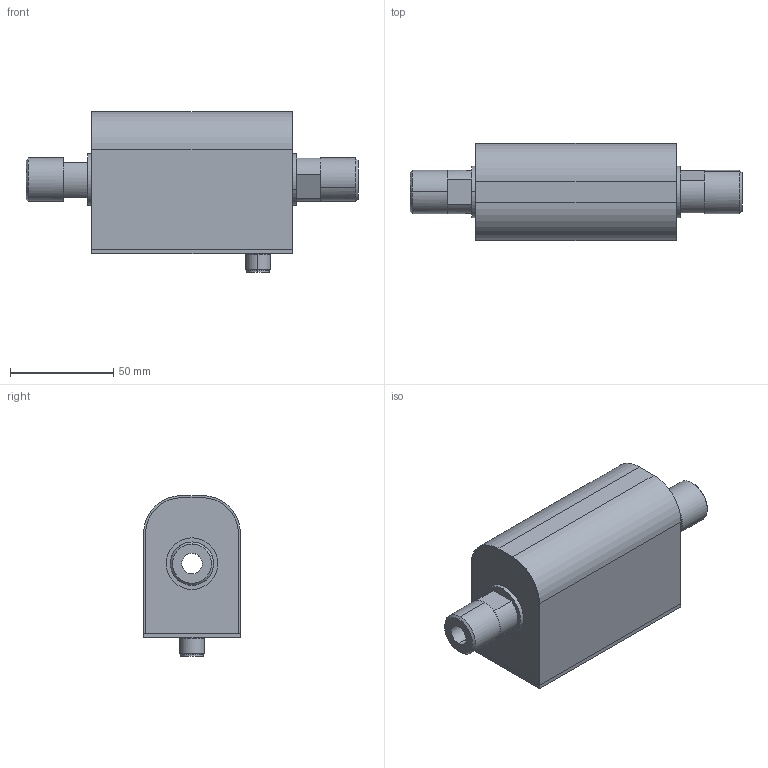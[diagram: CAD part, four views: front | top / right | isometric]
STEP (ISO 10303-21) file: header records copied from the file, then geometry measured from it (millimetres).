
FILE_DESCRIPTION (( 'STEP AP203' ), '1' );
FILE_NAME ('F32_Thread_DN10.STEP', '2019-10-03T16:52:06', ( 'Uživatel systému Windows' ), ( '' ), 'SwSTEP 2.0', 'SolidWorks 2017', '' );
FILE_SCHEMA (( 'CONFIG_CONTROL_DESIGN' ));
Length unit declared in the file: millimetre
Products named in the file (8): Konektor M12_8pin; F32-11-20-3_2019 (F32 G1_2 šroubení DN4-15); F32_Thread_DN10; F32-130-3-3_2019(F32DN4-18 Výpylek èela); F32-90-1-3_2018(F32DN4-20_Kryt Plech_r2); F32-90-3-2_2019(F32 DN4-18 閣咜ek Plech bez displeje ); FPW_Svìtlovod; FPW_Svìtlovod2
Assembly tree (9 placements, depth 2):
  F32_Thread_DN10
    F32-130-3-3_2019(F32DN4-18 Výpylek èela)  x2
    F32-90-1-3_2018(F32DN4-20_Kryt Plech_r2)
    F32-90-3-2_2019(F32 DN4-18 閣咜ek Plech bez displeje )
    FPW_Svìtlovod
    FPW_Svìtlovod2
    Konektor M12_8pin
    F32-11-20-3_2019 (F32 G1_2 šroubení DN4-15)  x2
Bounding box: 161 x 47 x 78 mm (x, y, z)
Volume: 79432.9 mm3; surface area: 70992.3 mm2
Topology: 9 solids, 9 shells, 513 faces, 1322 edges, 860 vertices
Faces by surface type: plane 324, cylinder 139, cone 22, bspline 20, torus 8
Entity records: 15327 total; most frequent: CARTESIAN_POINT 2847, ORIENTED_EDGE 2408, DIRECTION 2389, EDGE_CURVE 1204, VECTOR 897, LINE 897, VERTEX_POINT 794, AXIS2_PLACEMENT_3D 746
